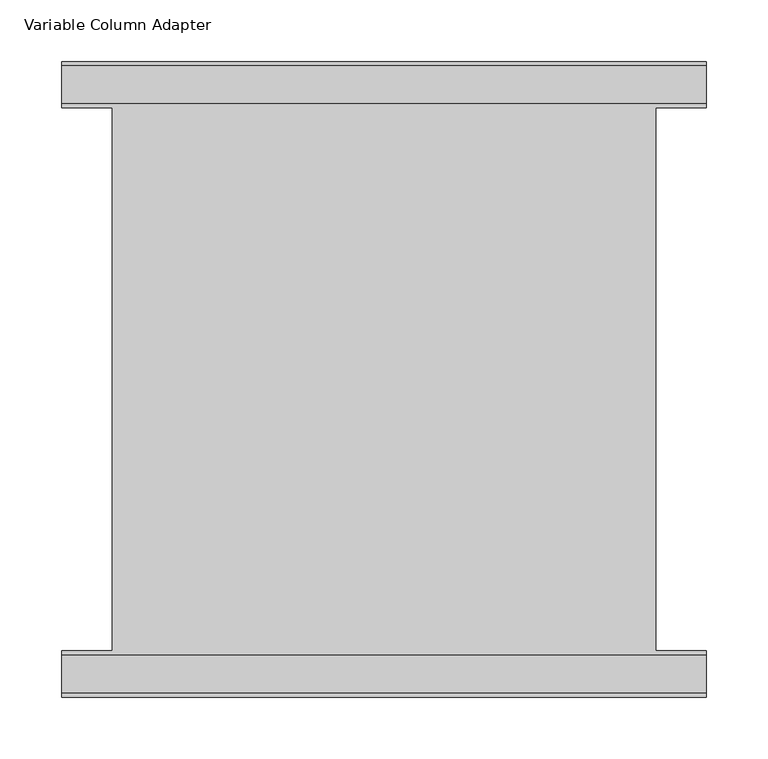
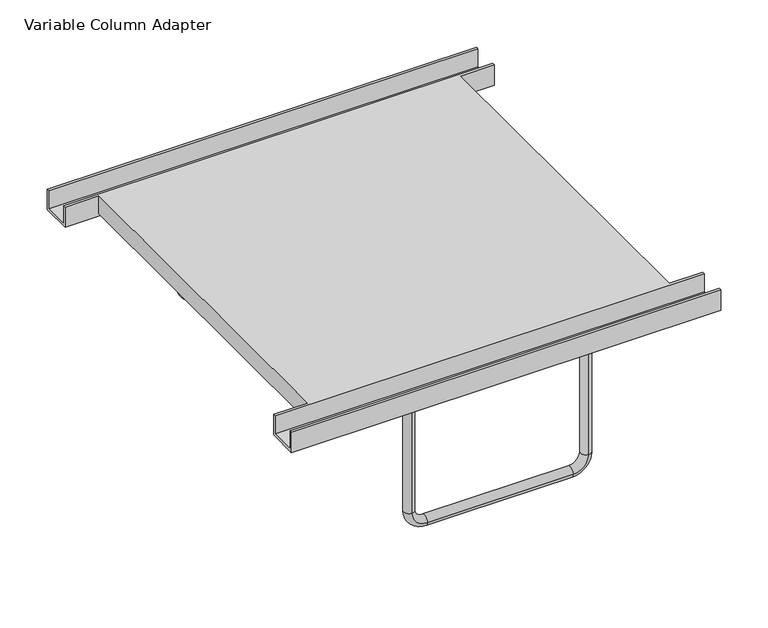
"""IFC4 building model written with IfcOpenShell, lengths in millimetres: proxy geometry, Adapter-Column_Mount_Variable-Chief-Flat_Panel_Mount : Variable Column Adapter."""

from ifc_helpers import new_model, si_unit, point, frame, origin, place, context, project, spatial, circle_curve, ellipse_curve, trimmed, faceted_brep, source, transform, mapped, element, save
from ifc_brep_helpers import plane_surface, cylinder_surface, revolved_surface, advanced_brep


def variable_column_adapter_8650502b(model_context):
    return source(origin(), model_context, "Body", "SolidModel", [
        advanced_brep(
        [(-107.95, 245.8085, 0.0), (-107.95, 233.1085, 0.0), (-107.95, 245.8085, -139.7), (-107.95, 233.1085, -139.7), (-88.9, 233.1085, -158.75), (-88.9, 245.8085, -158.75), (88.9, 245.8085, -158.75), (88.9, 233.1085, -158.75), (107.95, 233.1085, -139.7), (107.95, 245.8085, -139.7), (107.95, 245.8085, 0.0), (107.95, 233.1085, 0.0)],
        [
            (0, 1, circle_curve(frame((-107.95, 239.4585, 0.0), z_axis=(0.0, 0.0, 1.0), x_axis=(0.0, -1.0, 0.0)), 6.35)),
            (1, 0, circle_curve(frame((-107.95, 239.4585, 0.0), z_axis=(0.0, 0.0, 1.0), x_axis=(0.0, -1.0, 0.0)), 6.35)),
            (0, 2),
            (2, 3, circle_curve(frame((-107.95, 239.4585, -139.7), z_axis=(0.0, 0.0, 1.0), x_axis=(0.0, -1.0, 0.0)), 6.35)),
            (3, 1),
            (3, 2, circle_curve(frame((-107.95, 239.4585, -139.7), z_axis=(0.0, 0.0, 1.0), x_axis=(0.0, -1.0, 0.0)), 6.35)),
            (4, 3, circle_curve(frame((-88.9, 233.1085, -139.7), z_axis=(0.0, 1.0, 0.0), x_axis=(-1.0, 0.0, 0.0)), 19.05)),
            (2, 5, circle_curve(frame((-88.9, 245.8085, -139.7), z_axis=(0.0, -1.0, 0.0), x_axis=(-1.0, 0.0, 0.0)), 19.05)),
            (5, 4, circle_curve(frame((-88.9, 239.4585, -158.75), z_axis=(-1.0, 0.0, 0.0), x_axis=(0.0, -1.0, 0.0)), 6.35)),
            (4, 5, circle_curve(frame((-88.9, 239.4585, -158.75), z_axis=(-1.0, 0.0, 0.0), x_axis=(0.0, -1.0, 0.0)), 6.35)),
            (5, 6),
            (6, 7, circle_curve(frame((88.9, 239.4585, -158.75), z_axis=(-1.0, 0.0, 0.0), x_axis=(0.0, -1.0, 0.0)), 6.35)),
            (7, 4),
            (7, 6, circle_curve(frame((88.9, 239.4585, -158.75), z_axis=(-1.0, 0.0, 0.0), x_axis=(0.0, -1.0, 0.0)), 6.35)),
            (8, 7, circle_curve(frame((88.9, 233.1085, -139.7), z_axis=(0.0, 1.0, 0.0), x_axis=(0.0, 0.0, -1.0)), 19.05)),
            (6, 9, circle_curve(frame((88.9, 245.8085, -139.7), z_axis=(0.0, -1.0, 0.0), x_axis=(0.0, 0.0, -1.0)), 19.05)),
            (9, 8, circle_curve(frame((107.95, 239.4585, -139.7), z_axis=(0.0, 0.0, -1.0), x_axis=(0.0, -1.0, 0.0)), 6.35)),
            (8, 9, circle_curve(frame((107.95, 239.4585, -139.7), z_axis=(0.0, 0.0, -1.0), x_axis=(0.0, -1.0, 0.0)), 6.35)),
            (10, 11, circle_curve(frame((107.95, 239.4585, 0.0), z_axis=(0.0, 0.0, 1.0), x_axis=(0.0, -1.0, 0.0)), 6.35)),
            (11, 10, circle_curve(frame((107.95, 239.4585, 0.0), z_axis=(0.0, 0.0, 1.0), x_axis=(0.0, -1.0, 0.0)), 6.35)),
            (9, 10),
            (11, 8),
        ],
        [
            plane_surface(frame((-101.6, 0.0, 0.0), z_axis=(0.0, 0.0, 1.0), x_axis=(0.0, -1.0, 0.0))),
            cylinder_surface(frame((-107.95, 239.4585, 0.0), z_axis=(0.0, 0.0, 1.0), x_axis=(0.0, -1.0, 0.0)), 6.35),
            revolved_surface(trimmed(ellipse_curve(frame((-107.95, 239.4585, -139.7), z_axis=(0.0, 0.0, 1.0), x_axis=(0.0, -1.0, 0.0)), 6.35, 6.35), [point((-107.95, 245.8085, -139.7))], [point((-107.95, 233.1085, -139.7))], True, "CARTESIAN"), (-88.9, 0.0, -139.7), (0.0, -1.0, 0.0)),
            revolved_surface(trimmed(ellipse_curve(frame((-107.95, 239.4585, -139.7), z_axis=(0.0, 0.0, 1.0), x_axis=(0.0, -1.0, 0.0)), 6.35, 6.35), [point((-107.95, 233.1085, -139.7))], [point((-107.95, 245.8085, -139.7))], True, "CARTESIAN"), (-88.9, 0.0, -139.7), (0.0, -1.0, 0.0)),
            cylinder_surface(frame((-88.9, 239.4585, -158.75), z_axis=(-1.0, 0.0, 0.0), x_axis=(0.0, -1.0, 0.0)), 6.35),
            revolved_surface(trimmed(ellipse_curve(frame((88.9, 239.4585, -158.75), z_axis=(-1.0, 0.0, 0.0), x_axis=(0.0, -1.0, 0.0)), 6.35, 6.35), [point((88.9, 245.8085, -158.75))], [point((88.9, 233.1085, -158.75))], True, "CARTESIAN"), (88.9, 0.0, -139.7), (0.0, -1.0, 0.0)),
            revolved_surface(trimmed(ellipse_curve(frame((88.9, 239.4585, -158.75), z_axis=(-1.0, 0.0, 0.0), x_axis=(0.0, -1.0, 0.0)), 6.35, 6.35), [point((88.9, 233.1085, -158.75))], [point((88.9, 245.8085, -158.75))], True, "CARTESIAN"), (88.9, 0.0, -139.7), (0.0, -1.0, 0.0)),
            plane_surface(frame((101.6, 0.0, 0.0), z_axis=(0.0, 0.0, 1.0), x_axis=(0.0, -1.0, 0.0))),
            cylinder_surface(frame((107.95, 239.4585, -139.7), z_axis=(0.0, 0.0, -1.0), x_axis=(0.0, -1.0, 0.0)), 6.35),
        ],
        [
            (0, [[1, 2]]),
            (1, [[-1, 3, 4, 5]]),
            (1, [[-2, -5, 6, -3]]),
            (2, [[7, -4, 8, 9]]),
            (3, [[-8, -6, -7, 10]]),
            (4, [[-9, 11, 12, 13]]),
            (4, [[-10, -13, 14, -11]]),
            (5, [[15, -12, 16, 17]]),
            (6, [[-16, -14, -15, 18]]),
            (7, [[19, 20]]),
            (8, [[-17, 21, -20, 22]]),
            (8, [[-18, -22, -19, -21]]),
        ],
    ),
        advanced_brep(
        [(-107.95, -233.1085, 0.0), (-107.95, -245.8085, 0.0), (-107.95, -233.1085, -139.7), (-107.95, -245.8085, -139.7), (-88.9, -245.8085, -158.75), (-88.9, -233.1085, -158.75), (88.9, -233.1085, -158.75), (88.9, -245.8085, -158.75), (107.95, -245.8085, -139.7), (107.95, -233.1085, -139.7), (107.95, -233.1085, 0.0), (107.95, -245.8085, 0.0)],
        [
            (0, 1, circle_curve(frame((-107.95, -239.4585, 0.0), z_axis=(0.0, 0.0, 1.0), x_axis=(0.0, -1.0, 0.0)), 6.35)),
            (1, 0, circle_curve(frame((-107.95, -239.4585, 0.0), z_axis=(0.0, 0.0, 1.0), x_axis=(0.0, -1.0, 0.0)), 6.35)),
            (0, 2),
            (2, 3, circle_curve(frame((-107.95, -239.4585, -139.7), z_axis=(0.0, 0.0, 1.0), x_axis=(0.0, -1.0, 0.0)), 6.35)),
            (3, 1),
            (3, 2, circle_curve(frame((-107.95, -239.4585, -139.7), z_axis=(0.0, 0.0, 1.0), x_axis=(0.0, -1.0, 0.0)), 6.35)),
            (4, 3, circle_curve(frame((-88.9, -245.8085, -139.7), z_axis=(0.0, 1.0, 0.0), x_axis=(-1.0, 0.0, 0.0)), 19.05)),
            (2, 5, circle_curve(frame((-88.9, -233.1085, -139.7), z_axis=(0.0, -1.0, 0.0), x_axis=(-1.0, 0.0, 0.0)), 19.05)),
            (5, 4, circle_curve(frame((-88.9, -239.4585, -158.75), z_axis=(-1.0, 0.0, 0.0), x_axis=(0.0, -1.0, 0.0)), 6.35)),
            (4, 5, circle_curve(frame((-88.9, -239.4585, -158.75), z_axis=(-1.0, 0.0, 0.0), x_axis=(0.0, -1.0, 0.0)), 6.35)),
            (5, 6),
            (6, 7, circle_curve(frame((88.9, -239.4585, -158.75), z_axis=(-1.0, 0.0, 0.0), x_axis=(0.0, -1.0, 0.0)), 6.35)),
            (7, 4),
            (7, 6, circle_curve(frame((88.9, -239.4585, -158.75), z_axis=(-1.0, 0.0, 0.0), x_axis=(0.0, -1.0, 0.0)), 6.35)),
            (8, 7, circle_curve(frame((88.9, -245.8085, -139.7), z_axis=(0.0, 1.0, 0.0), x_axis=(0.0, 0.0, -1.0)), 19.05)),
            (6, 9, circle_curve(frame((88.9, -233.1085, -139.7), z_axis=(0.0, -1.0, 0.0), x_axis=(0.0, 0.0, -1.0)), 19.05)),
            (9, 8, circle_curve(frame((107.95, -239.4585, -139.7), z_axis=(0.0, 0.0, -1.0), x_axis=(0.0, -1.0, 0.0)), 6.35)),
            (8, 9, circle_curve(frame((107.95, -239.4585, -139.7), z_axis=(0.0, 0.0, -1.0), x_axis=(0.0, -1.0, 0.0)), 6.35)),
            (10, 11, circle_curve(frame((107.95, -239.4585, 0.0), z_axis=(0.0, 0.0, 1.0), x_axis=(0.0, -1.0, 0.0)), 6.35)),
            (11, 10, circle_curve(frame((107.95, -239.4585, 0.0), z_axis=(0.0, 0.0, 1.0), x_axis=(0.0, -1.0, 0.0)), 6.35)),
            (9, 10),
            (11, 8),
        ],
        [
            plane_surface(frame((-101.6, 0.0, 0.0), z_axis=(0.0, 0.0, 1.0), x_axis=(0.0, -1.0, 0.0))),
            cylinder_surface(frame((-107.95, -239.4585, 0.0), z_axis=(0.0, 0.0, 1.0), x_axis=(0.0, -1.0, 0.0)), 6.35),
            revolved_surface(trimmed(ellipse_curve(frame((-107.95, -239.4585, -139.7), z_axis=(0.0, 0.0, 1.0), x_axis=(0.0, -1.0, 0.0)), 6.35, 6.35), [point((-107.95, -233.1085, -139.7))], [point((-107.95, -245.8085, -139.7))], True, "CARTESIAN"), (-88.9, 0.0, -139.7), (0.0, -1.0, 0.0)),
            revolved_surface(trimmed(ellipse_curve(frame((-107.95, -239.4585, -139.7), z_axis=(0.0, 0.0, 1.0), x_axis=(0.0, -1.0, 0.0)), 6.35, 6.35), [point((-107.95, -245.8085, -139.7))], [point((-107.95, -233.1085, -139.7))], True, "CARTESIAN"), (-88.9, 0.0, -139.7), (0.0, -1.0, 0.0)),
            cylinder_surface(frame((-88.9, -239.4585, -158.75), z_axis=(-1.0, 0.0, 0.0), x_axis=(0.0, -1.0, 0.0)), 6.35),
            revolved_surface(trimmed(ellipse_curve(frame((88.9, -239.4585, -158.75), z_axis=(-1.0, 0.0, 0.0), x_axis=(0.0, -1.0, 0.0)), 6.35, 6.35), [point((88.9, -233.1085, -158.75))], [point((88.9, -245.8085, -158.75))], True, "CARTESIAN"), (88.9, 0.0, -139.7), (0.0, -1.0, 0.0)),
            revolved_surface(trimmed(ellipse_curve(frame((88.9, -239.4585, -158.75), z_axis=(-1.0, 0.0, 0.0), x_axis=(0.0, -1.0, 0.0)), 6.35, 6.35), [point((88.9, -245.8085, -158.75))], [point((88.9, -233.1085, -158.75))], True, "CARTESIAN"), (88.9, 0.0, -139.7), (0.0, -1.0, 0.0)),
            plane_surface(frame((101.6, 0.0, 0.0), z_axis=(0.0, 0.0, 1.0), x_axis=(0.0, -1.0, 0.0))),
            cylinder_surface(frame((107.95, -239.4585, -139.7), z_axis=(0.0, 0.0, -1.0), x_axis=(0.0, -1.0, 0.0)), 6.35),
        ],
        [
            (0, [[1, 2]]),
            (1, [[-1, 3, 4, 5]]),
            (1, [[-2, -5, 6, -3]]),
            (2, [[7, -4, 8, 9]]),
            (3, [[-8, -6, -7, 10]]),
            (4, [[-9, 11, 12, 13]]),
            (4, [[-10, -13, 14, -11]]),
            (5, [[15, -12, 16, 17]]),
            (6, [[-16, -14, -15, 18]]),
            (7, [[19, 20]]),
            (8, [[-17, 21, -20, 22]]),
            (8, [[-18, -22, -19, -21]]),
        ],
    ),
        faceted_brep([(220.726, -220.726, 26.416), (220.726, 220.726, 26.416), (262.001, 220.726, 26.416), (262.001, 223.774, 26.416), (-262.001, 223.774, 26.416), (-262.001, 220.726, 26.416), (-220.726, 220.726, 26.416), (-220.726, -220.726, 26.416), (-262.001, -220.726, 26.416), (-262.001, -223.774, 26.416), (262.001, -223.774, 26.416), (262.001, -220.726, 26.416), (-220.726, 220.726, 3.048), (-220.726, -220.726, 3.048), (-217.678, 220.726, 3.048), (-217.678, -220.726, 3.048), (-217.678, 220.726, 23.368), (-217.678, -220.726, 23.368), (217.678, 220.726, 23.368), (217.678, -220.726, 23.368), (217.678, 220.726, 3.048), (217.678, -220.726, 3.048), (220.726, 220.726, 3.048), (220.726, -220.726, 3.048), (262.001, -255.143, 26.416), (262.001, -258.191, 26.416), (262.001, -258.191, 0.0), (262.001, -220.726, 0.0), (262.001, -223.774, 3.048), (262.001, -255.143, 3.048), (262.001, 220.726, 0.0), (262.001, 258.191, 0.0), (262.001, 258.191, 26.416), (262.001, 255.143, 26.416), (262.001, 255.143, 3.048), (262.001, 223.774, 3.048), (-262.001, 223.774, 3.048), (-262.001, 255.143, 3.048), (-262.001, 255.143, 26.416), (-262.001, 258.191, 26.416), (-262.001, 258.191, 0.0), (-262.001, 220.726, 0.0), (-262.001, -255.143, 26.416), (-262.001, -255.143, 3.048), (-262.001, -223.774, 3.048), (-262.001, -220.726, 0.0), (-262.001, -258.191, 0.0), (-262.001, -258.191, 26.416)], [[[0, 1, 2, 3, 4, 5, 6, 7, 8, 9, 10, 11]], [[7, 6, 12, 13]], [[13, 12, 14, 15]], [[15, 14, 16, 17]], [[17, 16, 18, 19]], [[19, 18, 20, 21]], [[21, 20, 22, 23]], [[1, 0, 23, 22]], [[24, 25, 26, 27, 11, 10, 28, 29]], [[2, 30, 31, 32, 33, 34, 35, 3]], [[5, 4, 36, 37, 38, 39, 40, 41]], [[42, 43, 44, 9, 8, 45, 46, 47]], [[25, 24, 42, 47]], [[26, 25, 47, 46]], [[27, 26, 46, 45]], [[11, 27, 45, 8, 7, 13, 15, 17, 19, 21, 23, 0]], [[30, 2, 1, 22, 20, 18, 16, 14, 12, 6, 5, 41]], [[31, 30, 41, 40]], [[32, 31, 40, 39]], [[33, 32, 39, 38]], [[34, 33, 38, 37]], [[35, 34, 37, 36]], [[3, 35, 36, 4]], [[28, 10, 9, 44]], [[29, 28, 44, 43]], [[24, 29, 43, 42]]]),
    ])


if __name__ == "__main__":
    model = new_model("IFC4")
    model_context = context("Model", 3, world=origin())
    ifc_project = project(units=[si_unit("LENGTHUNIT", "METRE", prefix="MILLI")], contexts=[model_context])
    site = spatial("IfcSite", under=ifc_project)
    building = spatial("IfcBuilding", under=site)
    placement = place(None, origin())
    variable_column_adapter_shape = variable_column_adapter_8650502b(model_context)
    element("IfcBuildingElementProxy", 1, Name="Adapter-Column_Mount_Variable-Chief-Flat_Panel_Mount : Variable Column Adapter", ObjectType="Adapter-Column_Mount_Variable-Chief-Flat_Panel_Mount : Variable Column Adapter", at=placement, inside=building, context=model_context, shape_type="MappedRepresentation", body=[
        mapped(variable_column_adapter_shape, transform((0.0, 0.0, 0.0), x_axis=(1.0, 0.0, 0.0), y_axis=(0.0, 1.0, 0.0), z_axis=(0.0, 0.0, 1.0))),
    ])
    save(model, "model.ifc")
